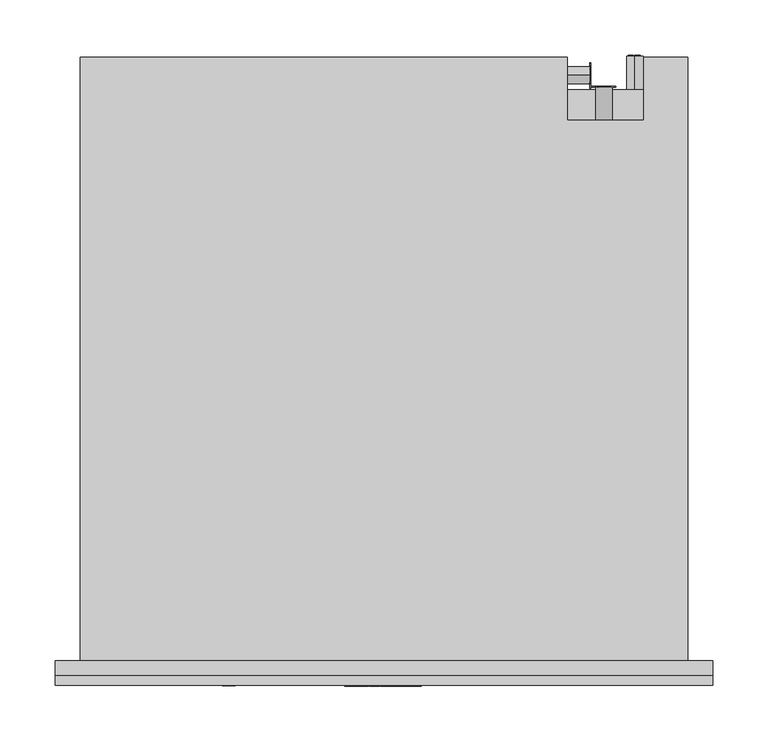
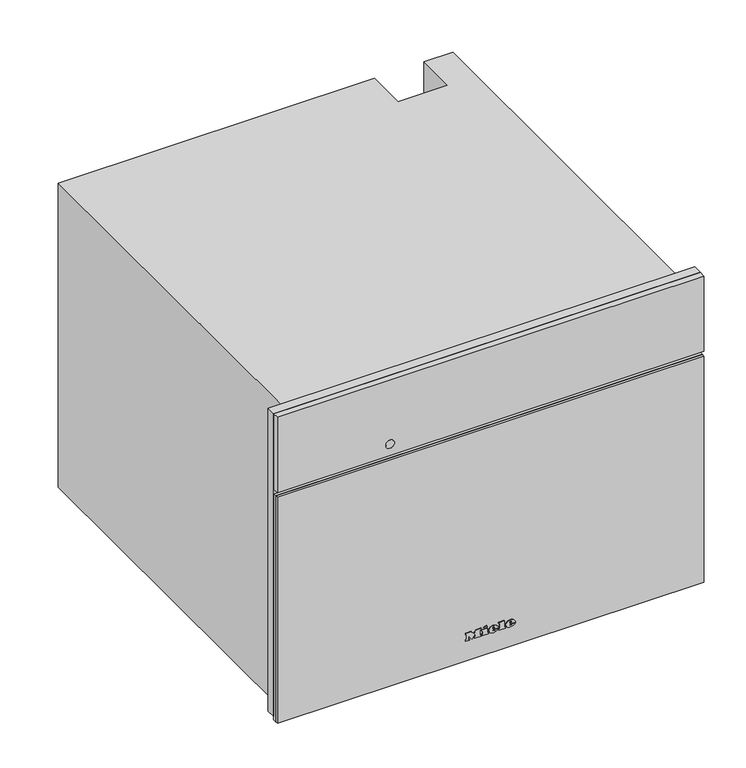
"""IFC4 building model written with IfcOpenShell, lengths in millimetres: proxy geometry, 12095120_F_DGC7845HCXPro_BRWS : 23784558_F_12095120_DGC7845HCXPro_BRWS."""

from ifc_helpers import new_model, si_unit, point, frame, frame_2d, origin, place, context, project, spatial, polyline, circle_curve, ellipse_curve, trimmed, segment, composite_curve, outline, extrude, faceted_brep, source, transform, mapped, element, save
from ifc_brep_helpers import plane_surface, cylinder_surface, revolved_surface, extruded_surface, advanced_brep


def specialty_equipment_7226c9d5(model_context):
    return source(origin(), model_context, "Body", "SolidModel", [
        extrude(outline(polyline([(455.0, 297.5), (455.0, -297.5), (9.0, -297.5), (9.0, 297.5), (455.0, 297.5)]), holes=[polyline([(344.0, -272.5), (344.0, 272.5), (27.0, 272.5), (27.0, -272.5), (344.0, -272.5)])]), frame((0.0, -13.0, 0.0), z_axis=(0.0, 1.0, 0.0), x_axis=(0.0, 0.0, 1.0)), (0.0, 0.0, 1.0), 13.0),
        extrude(outline(polyline([(383.0, 196.9217896), (383.0, 198.4267862), (393.0435673, 201.1942402), (393.0435673, 199.9014806), (384.4295103, 197.7797951), (393.0470645, 195.3087512), (393.0470645, 193.4373937), (384.4121052, 190.9191482), (393.0472266, 188.8443938), (393.0472266, 187.5376524), (383.0, 190.2769667), (383.0, 191.6257455), (391.8347238, 194.3884733), (383.0, 196.9217896)])), frame((0.0, 519.0, 0.0), z_axis=(0.0, 1.0, 0.0), x_axis=(0.0, 0.0, 1.0)), (0.0, 0.0, 1.0), 1.0),
        extrude(outline(polyline([(393.0468463, 209.521488), (393.0468463, 208.2566067), (388.129594, 208.2566067), (393.0474898, 203.1074328), (393.0474898, 201.3597489), (388.9313111, 205.6695027), (383.0, 201.1858157), (383.0, 202.7358731), (388.0700777, 206.5685235), (386.4282746, 208.2823622), (383.0, 208.2823622), (383.0, 209.521488), (393.0468463, 209.521488)])), frame((0.0, 519.0, 0.0), z_axis=(0.0, 1.0, 0.0), x_axis=(0.0, 0.0, 1.0)), (0.0, 0.0, 1.0), 1.0),
        extrude(outline(polyline([(518.3136153, 20.0), (522.323529, 30.045631), (523.3928394, 30.045631), (527.4027531, 20.0), (526.0759254, 20.0), (524.925681, 23.1392597), (520.7882348, 23.1392597), (519.640443, 20.0), (518.3136153, 20.0)]), holes=[polyline([(521.2493136, 24.3949636), (524.4670548, 24.3949636), (523.5620651, 26.864678), (522.8581842, 28.7899271), (522.2327848, 27.0805021), (521.2493136, 24.3949636)])]), frame((186.0, 0.0, 0.0), z_axis=(1.0, 0.0, 0.0), x_axis=(0.0, 1.0, 0.0)), (0.0, 0.0, 1.0), 1.0),
        extrude(outline(polyline([(530.5420128, 20.0), (527.8025182, 30.045631), (529.0974628, 30.045631), (530.6867131, 23.4433755), (531.1772224, 21.4053092), (531.7020674, 23.207931), (533.6935352, 30.045631), (535.5599232, 30.045631), (537.0069257, 25.0890343), (538.0835937, 21.4053092), (538.5593878, 23.3845144), (540.1633533, 30.045631), (541.4582979, 30.045631), (538.7163507, 20.0), (537.3748077, 20.0), (534.9664069, 27.7500474), (534.630408, 28.8316204), (534.2527159, 27.5293182), (532.0576866, 20.0), (530.5420128, 20.0)])), frame((186.0, 0.0, 0.0), z_axis=(1.0, 0.0, 0.0), x_axis=(0.0, 1.0, 0.0)), (0.0, 0.0, 1.0), 1.0),
        advanced_brep(
        [(227.0, 547.0, 255.5), (227.0, 547.0, 240.5), (221.4098301, 547.0, 243.0), (225.5, 547.0, 243.0), (225.5, 547.0, 253.0), (224.4955303, 547.0, 253.0), (224.4955303, 547.0, 244.0), (221.0315043, 547.0, 244.0), (221.0315043, 547.0, 243.4582978), (232.0, 547.0, 243.0), (232.0, 547.0, 253.0), (227.0, 547.0, 253.0), (227.0, 547.0, 252.0), (231.0, 547.0, 252.0), (231.0, 547.0, 248.5), (228.0, 547.0, 248.5), (228.0, 547.0, 247.5), (231.0, 547.0, 247.5), (231.0, 547.0, 244.0), (227.0, 547.0, 244.0), (227.0, 547.0, 243.0), (227.0, 517.0, 240.5), (227.0, 517.0, 255.5), (232.0, 548.0, 253.0), (232.0, 548.0, 243.0), (227.0, 548.0, 243.0), (227.0, 548.0, 244.0), (231.0, 548.0, 244.0), (231.0, 548.0, 247.5), (228.0, 548.0, 247.5), (228.0, 548.0, 248.5), (231.0, 548.0, 248.5), (231.0, 548.0, 252.0), (227.0, 548.0, 252.0), (227.0, 548.0, 253.0), (225.5, 548.0, 243.0), (221.0315043, 548.0, 243.0), (221.0315043, 548.0, 244.0), (224.4955303, 548.0, 244.0), (224.4955303, 548.0, 253.0), (225.5, 548.0, 253.0), (221.0315043, 547.0, 243.0)],
        [
            (0, 1, circle_curve(frame((227.0, 547.0, 248.0), z_axis=(0.0, 1.0, 0.0), x_axis=(0.0, 0.0, 1.0)), 7.5)),
            (1, 2, circle_curve(frame((227.0, 547.0, 248.0), z_axis=(0.0, 1.0, 0.0), x_axis=(0.0, 0.0, 1.0)), 7.5)),
            (2, 3),
            (3, 4),
            (4, 5),
            (5, 6),
            (6, 7),
            (7, 8),
            (8, 0, circle_curve(frame((227.0, 547.0, 248.0), z_axis=(0.0, 1.0, 0.0), x_axis=(0.0, 0.0, 1.0)), 7.5)),
            (9, 10),
            (10, 11),
            (11, 12),
            (12, 13),
            (13, 14),
            (14, 15),
            (15, 16),
            (16, 17),
            (17, 18),
            (18, 19),
            (19, 20),
            (20, 9),
            (21, 22, circle_curve(frame((227.0, 517.0, 248.0), z_axis=(0.0, -1.0, 0.0), x_axis=(0.0, 0.0, 1.0)), 7.5)),
            (22, 21, circle_curve(frame((227.0, 517.0, 248.0), z_axis=(0.0, -1.0, 0.0), x_axis=(0.0, 0.0, 1.0)), 7.5)),
            (0, 22),
            (21, 1),
            (8, 2, circle_curve(frame((227.0, 547.0, 248.0), z_axis=(0.0, -1.0, 0.0), x_axis=(0.0, 0.0, 1.0)), 7.5)),
            (23, 24),
            (24, 25),
            (25, 26),
            (26, 27),
            (27, 28),
            (28, 29),
            (29, 30),
            (30, 31),
            (31, 32),
            (32, 33),
            (33, 34),
            (34, 23),
            (35, 36),
            (36, 37),
            (37, 38),
            (38, 39),
            (39, 40),
            (40, 35),
            (8, 41),
            (41, 2),
            (23, 10),
            (9, 24),
            (20, 25),
            (19, 26),
            (18, 27),
            (17, 28),
            (16, 29),
            (15, 30),
            (14, 31),
            (13, 32),
            (12, 33),
            (11, 34),
            (35, 3),
            (41, 36),
            (7, 37),
            (6, 38),
            (5, 39),
            (4, 40),
        ],
        [
            plane_surface(frame((227.0, 547.0, 255.5), z_axis=(0.0, 1.0, 0.0), x_axis=(1.0, 0.0, 0.0))),
            plane_surface(frame((227.0, 517.0, 255.5), z_axis=(0.0, -1.0, 0.0), x_axis=(-1.0, 0.0, 0.0))),
            cylinder_surface(frame((227.0, 547.0, 248.0), z_axis=(0.0, -1.0, 0.0), x_axis=(0.0, 0.0, 1.0)), 7.5),
            plane_surface(frame((232.0, 548.0, 253.0), z_axis=(0.0, 1.0, 0.0), x_axis=(0.0, 0.0, -1.0))),
            plane_surface(frame((232.0, 547.0, 253.0), z_axis=(0.0, -1.0, 0.0), x_axis=(0.0, 0.0, 1.0))),
            plane_surface(frame((232.0, 548.0, 253.0), z_axis=(1.0, 0.0, 0.0), x_axis=(0.0, -1.0, 0.0))),
            plane_surface(frame((232.0, 548.0, 243.0), z_axis=(0.0, 0.0, -1.0), x_axis=(0.0, -1.0, 0.0))),
            plane_surface(frame((227.0, 548.0, 243.0), z_axis=(-1.0, 0.0, 0.0), x_axis=(0.0, -1.0, 0.0))),
            plane_surface(frame((227.0, 548.0, 244.0), z_axis=(0.0, 0.0, 1.0), x_axis=(0.0, -1.0, 0.0))),
            plane_surface(frame((231.0, 548.0, 244.0), z_axis=(-1.0, 0.0, 0.0), x_axis=(0.0, -1.0, 0.0))),
            plane_surface(frame((231.0, 548.0, 247.5), z_axis=(0.0, 0.0, -1.0), x_axis=(0.0, -1.0, 0.0))),
            plane_surface(frame((228.0, 548.0, 247.5), z_axis=(-1.0, 0.0, 0.0), x_axis=(0.0, -1.0, 0.0))),
            plane_surface(frame((228.0, 548.0, 248.5), z_axis=(0.0, 0.0, 1.0), x_axis=(0.0, -1.0, 0.0))),
            plane_surface(frame((231.0, 548.0, 248.5), z_axis=(-1.0, 0.0, 0.0), x_axis=(0.0, -1.0, 0.0))),
            plane_surface(frame((231.0, 548.0, 252.0), z_axis=(0.0, 0.0, -1.0), x_axis=(0.0, -1.0, 0.0))),
            plane_surface(frame((227.0, 548.0, 252.0), z_axis=(-1.0, 0.0, 0.0), x_axis=(0.0, -1.0, 0.0))),
            plane_surface(frame((227.0, 548.0, 253.0), z_axis=(0.0, 0.0, 1.0), x_axis=(0.0, -1.0, 0.0))),
            plane_surface(frame((225.5, 548.0, 243.0), z_axis=(0.0, 0.0, -1.0), x_axis=(0.0, -1.0, 0.0))),
            plane_surface(frame((221.0315043, 548.0, 243.0), z_axis=(-1.0, 0.0, 0.0), x_axis=(0.0, -1.0, 0.0))),
            plane_surface(frame((221.0315043, 548.0, 244.0), z_axis=(0.0, 0.0, 1.0), x_axis=(0.0, -1.0, 0.0))),
            plane_surface(frame((224.4955303, 548.0, 244.0), z_axis=(-1.0, 0.0, 0.0), x_axis=(0.0, -1.0, 0.0))),
            plane_surface(frame((224.4955303, 548.0, 253.0), z_axis=(0.0, 0.0, 1.0), x_axis=(0.0, -1.0, 0.0))),
            plane_surface(frame((225.5, 548.0, 253.0), z_axis=(1.0, 0.0, 0.0), x_axis=(0.0, -1.0, 0.0))),
        ],
        [
            (0, [[1, 2, 3, 4, 5, 6, 7, 8, 9], [10, 11, 12, 13, 14, 15, 16, 17, 18, 19, 20, 21]]),
            (1, [[22, 23]]),
            (2, [[-1, 24, -22, 25]]),
            (2, [[-23, -24, -9, 26, -2, -25]]),
            (3, [[27, 28, 29, 30, 31, 32, 33, 34, 35, 36, 37, 38]]),
            (3, [[39, 40, 41, 42, 43, 44]]),
            (4, [[45, 46, -26]]),
            (5, [[-27, 47, -10, 48]]),
            (6, [[-28, -48, -21, 49]]),
            (7, [[-29, -49, -20, 50]]),
            (8, [[-30, -50, -19, 51]]),
            (9, [[-31, -51, -18, 52]]),
            (10, [[-32, -52, -17, 53]]),
            (11, [[-33, -53, -16, 54]]),
            (12, [[-34, -54, -15, 55]]),
            (13, [[-35, -55, -14, 56]]),
            (14, [[-36, -56, -13, 57]]),
            (15, [[-37, -57, -12, 58]]),
            (16, [[-38, -58, -11, -47]]),
            (17, [[-39, 59, -3, -46, 60]]),
            (18, [[-40, -60, -45, -8, 61]]),
            (19, [[-41, -61, -7, 62]]),
            (20, [[-42, -62, -6, 63]]),
            (21, [[-43, -63, -5, 64]]),
            (22, [[-44, -64, -4, -59]]),
        ],
    ),
        extrude(outline(composite_curve([segment(trimmed(circle_curve(frame_2d((388.0, 199.0)), 7.5), [point((388.0, 206.5))], [point((388.0, 191.5))], False, "CARTESIAN"), True, "CONTINUOUS"), segment(trimmed(circle_curve(frame_2d((388.0, 199.0)), 7.5), [point((388.0, 191.5))], [point((388.0, 206.5))], False, "CARTESIAN"), True, "CONTINUOUS")], self_intersect=False)), frame((0.0, 489.0, 0.0), z_axis=(0.0, 1.0, 0.0), x_axis=(0.0, 0.0, 1.0)), (0.0, 0.0, 1.0), 30.0),
        extrude(outline(composite_curve([segment(trimmed(circle_curve(frame_2d((530.0, 25.0)), 7.5), [point((530.0, 17.5))], [point((530.0, 32.5))], False, "CARTESIAN"), True, "CONTINUOUS"), segment(trimmed(circle_curve(frame_2d((530.0, 25.0)), 7.5), [point((530.0, 32.5))], [point((530.0, 17.5))], False, "CARTESIAN"), True, "CONTINUOUS")], self_intersect=False)), frame((166.0, 0.0, 0.0), z_axis=(1.0, 0.0, 0.0), x_axis=(0.0, 1.0, 0.0)), (0.0, 0.0, 1.0), 20.0),
        faceted_brep([(-275.0, 546.0, 0.0), (-275.0, 546.0, 448.0), (166.0, 546.0, 448.0), (166.0, 546.0, 0.0), (235.0, 546.0, 448.0), (275.0, 546.0, 448.0), (275.0, 546.0, 338.0), (235.0, 546.0, 338.0), (275.0, 0.0, 448.0), (-275.0, 0.0, 448.0), (-275.0, 0.0, 0.0), (275.0, 0.0, 0.0), (-272.5, 0.0, 344.0), (272.5, 0.0, 344.0), (272.5, 0.0, 27.0), (-272.5, 0.0, 27.0), (235.0, 489.0, 448.0), (166.0, 489.0, 448.0), (166.0, 517.0, 0.0), (275.0, 517.0, 0.0), (275.0, 517.0, 338.0), (272.5, 17.0, 344.0), (-272.5, 17.0, 344.0), (-272.5, 17.0, 27.0), (272.5, 17.0, 27.0), (231.0, 17.0, 307.0), (231.0, 17.0, 65.0), (-231.0, 17.0, 65.0), (-231.0, 17.0, 307.0), (231.0, 411.0, 307.0), (-231.0, 411.0, 307.0), (-231.0, 411.0, 65.0), (231.0, 411.0, 65.0), (235.0, 489.0, 337.0), (166.0, 489.0, 337.0), (166.0, 517.0, 337.0), (235.0, 517.0, 337.0), (235.0, 517.0, 338.0)], [[[0, 1, 2, 3]], [[4, 5, 6, 7]], [[8, 9, 10, 11], [12, 13, 14, 15]], [[9, 8, 5, 4, 16, 17, 2, 1]], [[1, 0, 10, 9]], [[11, 10, 0, 3, 18, 19]], [[8, 11, 19, 20, 6, 5]], [[21, 22, 23, 24], [25, 26, 27, 28]], [[22, 21, 13, 12]], [[23, 22, 12, 15]], [[24, 23, 15, 14]], [[21, 24, 14, 13]], [[29, 30, 31, 32]], [[29, 32, 26, 25]], [[32, 31, 27, 26]], [[31, 30, 28, 27]], [[30, 29, 25, 28]], [[16, 33, 34, 17]], [[17, 34, 35, 18, 3, 2]], [[34, 33, 36, 35]], [[33, 16, 4, 7, 37, 36]], [[37, 20, 19, 18, 35, 36]], [[20, 37, 7, 6]]]),
        advanced_brep(
        [(26.2998, -23.0, 36.7018), (26.2998, -23.0, 37.8532), (33.9264, -23.0, 37.8532), (20.6568, -23.0, 37.8532), (23.7918, -23.0, 34.0), (33.7326, -23.0, 36.7018), (30.2898, -23.0, 36.7018), (27.5766, -23.0, 35.425), (26.2998, -23.0, 39.3124), (26.2998, -23.0, 40.555), (28.2492, -23.0, 40.555), (28.2492, -23.0, 39.3124), (26.2998, -22.0, 36.7018), (27.5766, -22.0, 35.425), (30.2898, -22.0, 36.7018), (33.7326, -22.0, 36.7018), (23.7918, -22.0, 34.0), (20.6568, -22.0, 37.8532), (33.9264, -22.0, 37.8532), (26.2998, -22.0, 37.8532), (26.2998, -22.0, 39.3124), (28.2492, -22.0, 39.3124), (28.2492, -22.0, 40.555), (26.2998, -22.0, 40.555)],
        [
            (0, 1),
            (1, 2),
            (2, 3, ellipse_curve(frame((27.2916, -23.0, 37.8532), z_axis=(0.0, -1.0, 0.0), x_axis=(-1.0, 0.0, 0.0)), 6.6348, 5.4834)),
            (3, 4, circle_curve(frame((25.0686622, -23.0, 38.2408), z_axis=(0.0, -1.0, 0.0), x_axis=(0.0, 0.0, -1.0)), 4.4288556)),
            (4, 5, circle_curve(frame((27.1587808, -23.0, 41.2504), z_axis=(0.0, -1.0, 0.0), x_axis=(0.0, 0.0, -1.0)), 7.9940516)),
            (5, 6),
            (6, 7, circle_curve(frame((28.1338588, -23.0, 37.762), z_axis=(0.0, 1.0, 0.0), x_axis=(0.0, 0.0, -1.0)), 2.4025208)),
            (7, 0, circle_curve(frame((27.5766, -23.0, 36.7018), z_axis=(0.0, 1.0, 0.0), x_axis=(0.0, 0.0, -1.0)), 1.2768)),
            (8, 9),
            (9, 10, circle_curve(frame((27.2745, -23.0, 40.555), z_axis=(0.0, 1.0, 0.0), x_axis=(0.0, 0.0, -1.0)), 0.9747)),
            (10, 11),
            (11, 8),
            (12, 13, circle_curve(frame((27.5766, -22.0, 36.7018), z_axis=(0.0, -1.0, 0.0), x_axis=(0.0, 0.0, -1.0)), 1.2768)),
            (13, 14, circle_curve(frame((28.1338588, -22.0, 37.762), z_axis=(0.0, -1.0, 0.0), x_axis=(0.0, 0.0, -1.0)), 2.4025208)),
            (14, 15),
            (15, 16, circle_curve(frame((27.1587808, -22.0, 41.2504), z_axis=(0.0, 1.0, 0.0), x_axis=(0.0, 0.0, -1.0)), 7.9940516)),
            (16, 17, circle_curve(frame((25.0686622, -22.0, 38.2408), z_axis=(0.0, 1.0, 0.0), x_axis=(0.0, 0.0, -1.0)), 4.4288556)),
            (17, 18, ellipse_curve(frame((27.2916, -22.0, 37.8532), z_axis=(0.0, 1.0, 0.0), x_axis=(-1.0, 0.0, 0.0)), 6.6348, 5.4834)),
            (18, 19),
            (19, 12),
            (20, 21),
            (21, 22),
            (22, 23, circle_curve(frame((27.2745, -22.0, 40.555), z_axis=(0.0, -1.0, 0.0), x_axis=(0.0, 0.0, -1.0)), 0.9747)),
            (23, 20),
            (0, 12),
            (19, 1),
            (18, 2),
            (5, 15),
            (14, 6),
            (17, 3),
            (13, 7),
            (16, 4),
            (8, 20),
            (23, 9),
            (22, 10),
            (21, 11),
        ],
        [
            plane_surface(frame((26.2998, -23.0, 37.8532), z_axis=(0.0, -1.0, 0.0), x_axis=(0.0, 0.0, 1.0))),
            plane_surface(frame((26.2998, -22.0, 37.8532), z_axis=(0.0, 1.0, 0.0), x_axis=(0.0, 0.0, -1.0))),
            plane_surface(frame((26.2998, -23.0, 36.7018), z_axis=(1.0, 0.0, 0.0), x_axis=(0.0, 1.0, 0.0))),
            plane_surface(frame((26.2998, -23.0, 37.8532), z_axis=(0.0, 0.0, -1.0), x_axis=(0.0, 1.0, 0.0))),
            plane_surface(frame((33.7326, -23.0, 36.7018), z_axis=(0.0, 0.0, 1.0), x_axis=(0.0, 1.0, 0.0))),
            extruded_surface(trimmed(ellipse_curve(frame((27.2916, -21.0, 37.8532), z_axis=(0.0, -1.0, 0.0), x_axis=(-1.0, 0.0, 0.0)), 6.6348, 5.4834), [point((33.9264, -21.0, 37.8532))], [point((20.6568, -21.0, 37.8532))], True, "CARTESIAN"), (0.0, -1.0, 0.0), 1.0),
            revolved_surface(polyline([(28.1338588, -22.0, 35.3594792), (28.1338588, -23.0, 35.3594792)]), (28.1338588, -22.0, 37.762), (0.0, 1.0, 0.0)),
            revolved_surface(polyline([(27.5766, -22.0, 35.425), (27.5766, -23.0, 35.425)]), (27.5766, -22.0, 36.7018), (0.0, 1.0, 0.0)),
            cylinder_surface(frame((25.0686622, -22.0, 38.2408), z_axis=(0.0, -1.0, 0.0), x_axis=(0.0, 0.0, -1.0)), 4.4288556),
            cylinder_surface(frame((27.1587808, -22.0, 41.2504), z_axis=(0.0, -1.0, 0.0), x_axis=(0.0, 0.0, -1.0)), 7.9940516),
            plane_surface(frame((26.2998, -23.0, 39.3124), z_axis=(1.0, 0.0, 0.0), x_axis=(0.0, 1.0, 0.0))),
            revolved_surface(polyline([(27.2745, -22.0, 39.5803), (27.2745, -23.0, 39.5803)]), (27.2745, -22.0, 40.555), (0.0, 1.0, 0.0)),
            plane_surface(frame((28.2492, -23.0, 40.555), z_axis=(-1.0, 0.0, 0.0), x_axis=(0.0, 1.0, 0.0))),
            plane_surface(frame((28.2492, -23.0, 39.3124), z_axis=(0.0, 0.0, 1.0), x_axis=(0.0, 1.0, 0.0))),
        ],
        [
            (0, [[1, 2, 3, 4, 5, 6, 7, 8], [9, 10, 11, 12]]),
            (1, [[13, 14, 15, 16, 17, 18, 19, 20], [21, 22, 23, 24]]),
            (2, [[-1, 25, -20, 26]]),
            (3, [[-2, -26, -19, 27]]),
            (4, [[-6, 28, -15, 29]]),
            (5, [[-3, -27, -18, 30]]),
            (6, [[-7, -29, -14, 31]]),
            (7, [[-8, -31, -13, -25]]),
            (8, [[-4, -30, -17, 32]]),
            (9, [[-5, -32, -16, -28]]),
            (10, [[-9, 33, -24, 34]]),
            (11, [[-10, -34, -23, 35]]),
            (12, [[-11, -35, -22, 36]]),
            (13, [[-12, -36, -21, -33]]),
        ],
    ),
        advanced_brep(
        [(2.508, -23.0, 36.7018), (2.508, -23.0, 37.8532), (10.1346, -23.0, 37.8532), (-3.135, -23.0, 37.8532), (0.0, -23.0, 34.0), (9.9408, -23.0, 36.7018), (6.498, -23.0, 36.7018), (3.7848, -23.0, 35.425), (2.508, -23.0, 39.3124), (2.508, -23.0, 40.555), (4.4574, -23.0, 40.555), (4.4574, -23.0, 39.3124), (2.508, -22.0, 36.7018), (3.7848, -22.0, 35.425), (6.498, -22.0, 36.7018), (9.9408, -22.0, 36.7018), (0.0, -22.0, 34.0), (-3.135, -22.0, 37.8532), (10.1346, -22.0, 37.8532), (2.508, -22.0, 37.8532), (2.508, -22.0, 39.3124), (4.4574, -22.0, 39.3124), (4.4574, -22.0, 40.555), (2.508, -22.0, 40.555)],
        [
            (0, 1),
            (1, 2),
            (2, 3, ellipse_curve(frame((3.4998, -23.0, 37.8532), z_axis=(0.0, -1.0, 0.0), x_axis=(-1.0, 0.0, 0.0)), 6.6348, 5.4834)),
            (3, 4, circle_curve(frame((1.2768622, -23.0, 38.2408), z_axis=(0.0, -1.0, 0.0), x_axis=(0.0, 0.0, -1.0)), 4.4288556)),
            (4, 5, circle_curve(frame((3.3669808, -23.0, 41.2504), z_axis=(0.0, -1.0, 0.0), x_axis=(0.0, 0.0, -1.0)), 7.9940516)),
            (5, 6),
            (6, 7, circle_curve(frame((4.3420588, -23.0, 37.762), z_axis=(0.0, 1.0, 0.0), x_axis=(0.0, 0.0, -1.0)), 2.4025208)),
            (7, 0, circle_curve(frame((3.7848, -23.0, 36.7018), z_axis=(0.0, 1.0, 0.0), x_axis=(0.0, 0.0, -1.0)), 1.2768)),
            (8, 9),
            (9, 10, circle_curve(frame((3.4827, -23.0, 40.555), z_axis=(0.0, 1.0, 0.0), x_axis=(0.0, 0.0, -1.0)), 0.9747)),
            (10, 11),
            (11, 8),
            (12, 13, circle_curve(frame((3.7848, -22.0, 36.7018), z_axis=(0.0, -1.0, 0.0), x_axis=(0.0, 0.0, -1.0)), 1.2768)),
            (13, 14, circle_curve(frame((4.3420588, -22.0, 37.762), z_axis=(0.0, -1.0, 0.0), x_axis=(0.0, 0.0, -1.0)), 2.4025208)),
            (14, 15),
            (15, 16, circle_curve(frame((3.3669808, -22.0, 41.2504), z_axis=(0.0, 1.0, 0.0), x_axis=(0.0, 0.0, -1.0)), 7.9940516)),
            (16, 17, circle_curve(frame((1.2768622, -22.0, 38.2408), z_axis=(0.0, 1.0, 0.0), x_axis=(0.0, 0.0, -1.0)), 4.4288556)),
            (17, 18, ellipse_curve(frame((3.4998, -22.0, 37.8532), z_axis=(0.0, 1.0, 0.0), x_axis=(-1.0, 0.0, 0.0)), 6.6348, 5.4834)),
            (18, 19),
            (19, 12),
            (20, 21),
            (21, 22),
            (22, 23, circle_curve(frame((3.4827, -22.0, 40.555), z_axis=(0.0, -1.0, 0.0), x_axis=(0.0, 0.0, -1.0)), 0.9747)),
            (23, 20),
            (0, 12),
            (19, 1),
            (18, 2),
            (5, 15),
            (14, 6),
            (17, 3),
            (13, 7),
            (16, 4),
            (8, 20),
            (23, 9),
            (22, 10),
            (21, 11),
        ],
        [
            plane_surface(frame((2.508, -23.0, 37.8532), z_axis=(0.0, -1.0, 0.0), x_axis=(0.0, 0.0, 1.0))),
            plane_surface(frame((2.508, -22.0, 37.8532), z_axis=(0.0, 1.0, 0.0), x_axis=(0.0, 0.0, -1.0))),
            plane_surface(frame((2.508, -23.0, 36.7018), z_axis=(1.0, 0.0, 0.0), x_axis=(0.0, 1.0, 0.0))),
            plane_surface(frame((2.508, -23.0, 37.8532), z_axis=(0.0, 0.0, -1.0), x_axis=(0.0, 1.0, 0.0))),
            plane_surface(frame((9.9408, -23.0, 36.7018), z_axis=(0.0, 0.0, 1.0), x_axis=(0.0, 1.0, 0.0))),
            extruded_surface(trimmed(ellipse_curve(frame((3.4998, -21.0, 37.8532), z_axis=(0.0, -1.0, 0.0), x_axis=(-1.0, 0.0, 0.0)), 6.6348, 5.4834), [point((10.1346, -21.0, 37.8532))], [point((-3.135, -21.0, 37.8532))], True, "CARTESIAN"), (0.0, -1.0, 0.0), 1.0),
            revolved_surface(polyline([(4.3420588, -22.0, 35.3594792), (4.3420588, -23.0, 35.3594792)]), (4.3420588, -22.0, 37.762), (0.0, 1.0, 0.0)),
            revolved_surface(polyline([(3.7848, -22.0, 35.425), (3.7848, -23.0, 35.425)]), (3.7848, -22.0, 36.7018), (0.0, 1.0, 0.0)),
            cylinder_surface(frame((1.2768622, -22.0, 38.2408), z_axis=(0.0, -1.0, 0.0), x_axis=(0.0, 0.0, -1.0)), 4.4288556),
            cylinder_surface(frame((3.3669808, -22.0, 41.2504), z_axis=(0.0, -1.0, 0.0), x_axis=(0.0, 0.0, -1.0)), 7.9940516),
            plane_surface(frame((2.508, -23.0, 39.3124), z_axis=(1.0, 0.0, 0.0), x_axis=(0.0, 1.0, 0.0))),
            revolved_surface(polyline([(3.4827, -22.0, 39.5803), (3.4827, -23.0, 39.5803)]), (3.4827, -22.0, 40.555), (0.0, 1.0, 0.0)),
            plane_surface(frame((4.4574, -23.0, 40.555), z_axis=(-1.0, 0.0, 0.0), x_axis=(0.0, 1.0, 0.0))),
            plane_surface(frame((4.4574, -23.0, 39.3124), z_axis=(0.0, 0.0, 1.0), x_axis=(0.0, 1.0, 0.0))),
        ],
        [
            (0, [[1, 2, 3, 4, 5, 6, 7, 8], [9, 10, 11, 12]]),
            (1, [[13, 14, 15, 16, 17, 18, 19, 20], [21, 22, 23, 24]]),
            (2, [[-1, 25, -20, 26]]),
            (3, [[-2, -26, -19, 27]]),
            (4, [[-6, 28, -15, 29]]),
            (5, [[-3, -27, -18, 30]]),
            (6, [[-7, -29, -14, 31]]),
            (7, [[-8, -31, -13, -25]]),
            (8, [[-4, -30, -17, 32]]),
            (9, [[-5, -32, -16, -28]]),
            (10, [[-9, 33, -24, 34]]),
            (11, [[-10, -34, -23, 35]]),
            (12, [[-11, -35, -22, 36]]),
            (13, [[-12, -36, -21, -33]]),
        ],
    ),
        extrude(outline(polyline([(44.7274, -9.9522), (42.8806, -9.0858), (44.6818, -5.2212), (46.5286, -6.0762), (44.7274, -9.9522)])), frame((0.0, -23.0, 0.0), z_axis=(0.0, 1.0, 0.0), x_axis=(0.0, 0.0, 1.0)), (0.0, 0.0, 1.0), 1.0),
        extrude(outline(polyline([(42.6298, -12.768), (40.5892, -12.768), (40.5892, -11.4114), (35.9152, -11.4114), (35.9152, -12.768), (34.0, -12.768), (34.0, -3.7734), (35.9152, -3.7734), (35.9152, -5.0958), (42.6298, -5.0958), (42.6298, -12.768)])), frame((0.0, -23.0, 0.0), z_axis=(0.0, 1.0, 0.0), x_axis=(0.0, 0.0, 1.0)), (0.0, 0.0, 1.0), 1.0),
        extrude(outline(polyline([(43.5418, 10.773), (43.5418, 12.141), (35.9152, 12.141), (35.9152, 10.773), (34.0, 10.773), (34.0, 20.0184), (35.9152, 20.0184), (35.9152, 18.6162), (45.4, 18.6162), (45.4, 10.773), (43.5418, 10.773)])), frame((0.0, -23.0, 0.0), z_axis=(0.0, 1.0, 0.0), x_axis=(0.0, 0.0, 1.0)), (0.0, 0.0, 1.0), 1.0),
        extrude(outline(polyline([(43.5418, -35.4882), (43.5418, -34.1088), (35.9152, -34.1088), (35.9152, -35.4882), (34.0, -35.4882), (34.0, -30.4722), (35.9152, -30.4722), (35.9152, -31.8402), (40.7429247, -31.8402), (34.0, -26.7444), (40.9402223, -21.6258), (35.9152, -21.6258), (35.9152, -23.028), (34.0, -23.028), (34.0, -13.9308), (35.9152, -13.9308), (35.9152, -15.3786), (43.5418, -15.3786), (43.5418, -13.9308), (45.4, -13.9308), (45.4, -20.8734), (41.125, -24.2022), (45.4, -27.5424), (45.4, -35.4882), (43.5418, -35.4882)])), frame((0.0, -23.0, 0.0), z_axis=(0.0, 1.0, 0.0), x_axis=(0.0, 0.0, 1.0)), (0.0, 0.0, 1.0), 1.0),
        extrude(outline(polyline([(297.5, -22.0), (-297.5, -22.0), (-297.5, -13.0), (297.5, -13.0), (297.5, -22.0)])), frame((0.0, 0.0, 344.0), z_axis=(0.0, 0.0, 1.0), x_axis=(1.0, 0.0, 0.0)), (0.0, 0.0, 1.0), 111.0),
        extrude(outline(composite_curve([segment(trimmed(circle_curve(frame_2d((361.0, -140.5745637)), 6.0), [point((361.0, -146.5745637))], [point((361.0, -134.5745637))], False, "CARTESIAN"), True, "CONTINUOUS"), segment(trimmed(circle_curve(frame_2d((361.0, -140.5745637)), 6.0), [point((361.0, -134.5745637))], [point((361.0, -146.5745637))], False, "CARTESIAN"), True, "CONTINUOUS")], self_intersect=False)), frame((0.0, -22.5, 0.0), z_axis=(0.0, 1.0, 0.0), x_axis=(0.0, 0.0, 1.0)), (0.0, 0.0, 1.0), 1.0),
        extrude(outline(polyline([(297.5, -18.0), (-297.5, -18.0), (-297.5, -13.0), (297.5, -13.0), (297.5, -18.0)])), frame((0.0, 0.0, 4.0), z_axis=(0.0, 0.0, 1.0), x_axis=(1.0, 0.0, 0.0)), (0.0, 0.0, 1.0), 333.0),
        extrude(outline(polyline([(-297.5, -18.0), (297.5, -18.0), (297.5, -22.0), (-297.5, -22.0), (-297.5, -18.0)])), frame((0.0, 0.0, 4.0), z_axis=(0.0, 0.0, 1.0), x_axis=(1.0, 0.0, 0.0)), (0.0, 0.0, 1.0), 333.0),
    ])


if __name__ == "__main__":
    model = new_model("IFC4")
    model_context = context("Model", 3, world=origin())
    ifc_project = project(units=[si_unit("LENGTHUNIT", "METRE", prefix="MILLI")], contexts=[model_context])
    site = spatial("IfcSite", under=ifc_project)
    building = spatial("IfcBuilding", under=site)
    placement = place(None, origin())
    specialty_equipment_shape = specialty_equipment_7226c9d5(model_context)
    element("IfcBuildingElementProxy", 1, Name="12095120_F_DGC7845HCXPro_BRWS : 23784558_F_12095120_DGC7845HCXPro_BRWS", ObjectType="12095120_F_DGC7845HCXPro_BRWS : 23784558_F_12095120_DGC7845HCXPro_BRWS", at=placement, inside=building, context=model_context, shape_type="MappedRepresentation", body=[
        mapped(specialty_equipment_shape, transform((0.0, 0.0, 0.0), x_axis=(1.0, 0.0, 0.0), y_axis=(0.0, 1.0, 0.0), z_axis=(0.0, 0.0, 1.0))),
    ])
    save(model, "model.ifc")
